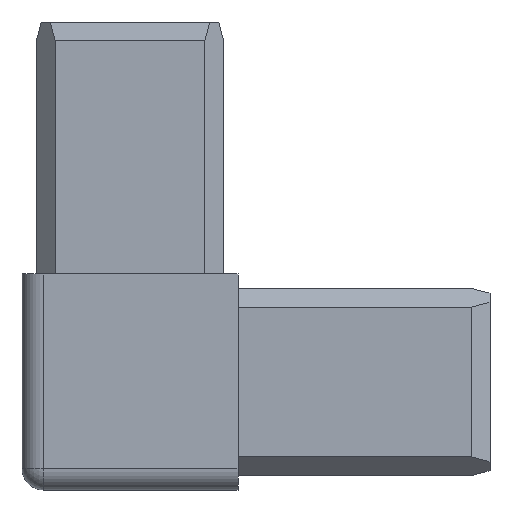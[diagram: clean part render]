
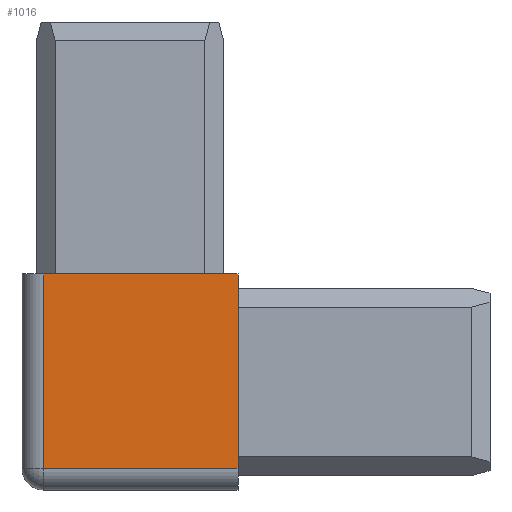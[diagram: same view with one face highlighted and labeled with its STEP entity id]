
A CAD part, left-side view. The second image highlights one B-rep face of the part: STEP entity #1016.
In plain terms, the highlighted planar face has unit normal (-1, 0, 0).
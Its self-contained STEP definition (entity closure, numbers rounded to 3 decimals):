
#73 = DIRECTION ( 'NONE',  ( 0., 0., -1. ) ) ;
#77 = LINE ( 'NONE', #587, #175 ) ;
#139 = VECTOR ( 'NONE', #73, 1000. ) ;
#175 = VECTOR ( 'NONE', #593, 1000. ) ;
#176 = CARTESIAN_POINT ( 'NONE',  ( -15., 12., 50. ) ) ;
#278 = DIRECTION ( 'NONE',  ( 0., 1., 0. ) ) ;
#300 = CARTESIAN_POINT ( 'NONE',  ( -15., 15., 50. ) ) ;
#307 = DIRECTION ( 'NONE',  ( 0., 1., 0. ) ) ;
#324 = EDGE_CURVE ( 'NONE', #395, #1088, #1309, .T. ) ;
#393 = VERTEX_POINT ( 'NONE', #1338 ) ;
#395 = VERTEX_POINT ( 'NONE', #1115 ) ;
#447 = AXIS2_PLACEMENT_3D ( 'NONE', #300, #1359, #307 ) ;
#487 = EDGE_LOOP ( 'NONE', ( #501, #901, #1377, #1135 ) ) ;
#501 = ORIENTED_EDGE ( 'NONE', *, *, #625, .T. ) ;
#587 = CARTESIAN_POINT ( 'NONE',  ( -15., 15., -12. ) ) ;
#593 = DIRECTION ( 'NONE',  ( 0., -1., 0. ) ) ;
#610 = VECTOR ( 'NONE', #977, 1000. ) ;
#623 = FACE_OUTER_BOUND ( 'NONE', #487, .T. ) ;
#625 = EDGE_CURVE ( 'NONE', #393, #636, #1130, .T. ) ;
#636 = VERTEX_POINT ( 'NONE', #890 ) ;
#682 = CARTESIAN_POINT ( 'NONE',  ( -15., -15., 15. ) ) ;
#780 = EDGE_CURVE ( 'NONE', #395, #393, #1333, .T. ) ;
#831 = EDGE_CURVE ( 'NONE', #636, #1088, #77, .T. ) ;
#890 = CARTESIAN_POINT ( 'NONE',  ( -15., 12., -12. ) ) ;
#901 = ORIENTED_EDGE ( 'NONE', *, *, #831, .T. ) ;
#977 = DIRECTION ( 'NONE',  ( 0., 0., -1. ) ) ;
#1016 = ADVANCED_FACE ( 'NONE', ( #623 ), #1148, .F. ) ;
#1053 = CARTESIAN_POINT ( 'NONE',  ( -15., -15., -12. ) ) ;
#1088 = VERTEX_POINT ( 'NONE', #1053 ) ;
#1115 = CARTESIAN_POINT ( 'NONE',  ( -15., -15., 15. ) ) ;
#1118 = CARTESIAN_POINT ( 'NONE',  ( -15., -50., 15. ) ) ;
#1130 = LINE ( 'NONE', #176, #139 ) ;
#1135 = ORIENTED_EDGE ( 'NONE', *, *, #780, .T. ) ;
#1148 = PLANE ( 'NONE',  #447 ) ;
#1309 = LINE ( 'NONE', #682, #610 ) ;
#1333 = LINE ( 'NONE', #1118, #1342 ) ;
#1338 = CARTESIAN_POINT ( 'NONE',  ( -15., 12., 15. ) ) ;
#1342 = VECTOR ( 'NONE', #278, 1000. ) ;
#1359 = DIRECTION ( 'NONE',  ( 1., 0., 0. ) ) ;
#1377 = ORIENTED_EDGE ( 'NONE', *, *, #324, .F. ) ;
